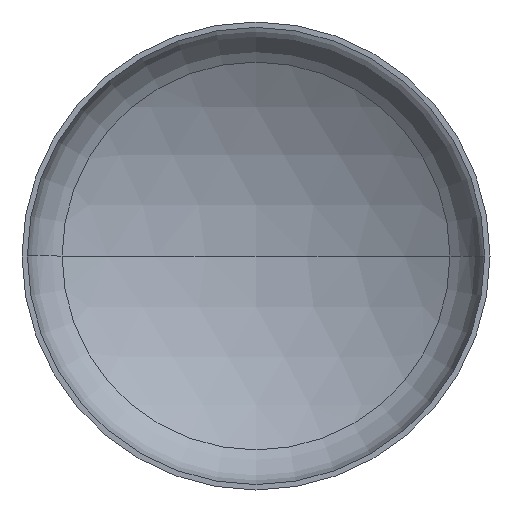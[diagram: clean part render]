
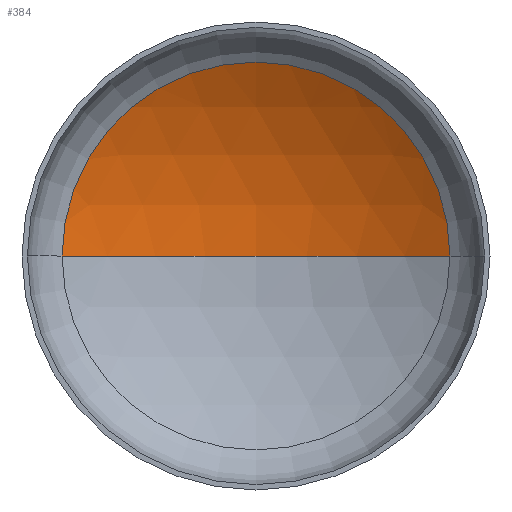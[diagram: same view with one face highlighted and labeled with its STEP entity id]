
A CAD part, front view. The second image highlights one B-rep face of the part: STEP entity #384.
In plain terms, the highlighted spherical face has radius 3200 mm.
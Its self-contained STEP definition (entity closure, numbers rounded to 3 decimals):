
#3 = AXIS2_PLACEMENT_3D ( 'NONE', #129, #173, #350 ) ;
#16 = AXIS2_PLACEMENT_3D ( 'NONE', #160, #152, #333 ) ;
#17 = AXIS2_PLACEMENT_3D ( 'NONE', #313, #285, #110 ) ;
#19 = CIRCLE ( 'NONE', #16, 3200. ) ;
#21 = AXIS2_PLACEMENT_3D ( 'NONE', #102, #142, #136 ) ;
#24 = EDGE_LOOP ( 'NONE', ( #93, #34, #366 ) ) ;
#34 = ORIENTED_EDGE ( 'NONE', *, *, #338, .T. ) ;
#41 = CIRCLE ( 'NONE', #21, 1657.563 ) ;
#93 = ORIENTED_EDGE ( 'NONE', *, *, #341, .F. ) ;
#102 = CARTESIAN_POINT ( 'NONE',  ( 0., 666.063, 0. ) ) ;
#110 = DIRECTION ( 'NONE',  ( 1., 0., 0. ) ) ;
#127 = VERTEX_POINT ( 'NONE', #213 ) ;
#129 = CARTESIAN_POINT ( 'NONE',  ( 0., -2071.177, 0. ) ) ;
#135 = VERTEX_POINT ( 'NONE', #211 ) ;
#136 = DIRECTION ( 'NONE',  ( 1., 0., 0. ) ) ;
#142 = DIRECTION ( 'NONE',  ( 0., -1., 0. ) ) ;
#149 = VERTEX_POINT ( 'NONE', #200 ) ;
#152 = DIRECTION ( 'NONE',  ( 0., 0., -1. ) ) ;
#160 = CARTESIAN_POINT ( 'NONE',  ( 0., -2071.177, 0. ) ) ;
#173 = DIRECTION ( 'NONE',  ( 0., 0., -1. ) ) ;
#200 = CARTESIAN_POINT ( 'NONE',  ( -1657.563, 666.063, 0. ) ) ;
#211 = CARTESIAN_POINT ( 'NONE',  ( 0., 1128.823, 0. ) ) ;
#213 = CARTESIAN_POINT ( 'NONE',  ( 1657.563, 666.063, 0. ) ) ;
#285 = DIRECTION ( 'NONE',  ( 0., 0., 1. ) ) ;
#298 = CIRCLE ( 'NONE', #17, 3200. ) ;
#313 = CARTESIAN_POINT ( 'NONE',  ( 0., -2071.177, 0. ) ) ;
#332 = EDGE_CURVE ( 'NONE', #127, #149, #41, .T. ) ;
#333 = DIRECTION ( 'NONE',  ( -1., 0., 0. ) ) ;
#338 = EDGE_CURVE ( 'NONE', #135, #127, #19, .T. ) ;
#341 = EDGE_CURVE ( 'NONE', #135, #149, #298, .T. ) ;
#350 = DIRECTION ( 'NONE',  ( -1., 0., 0. ) ) ;
#366 = ORIENTED_EDGE ( 'NONE', *, *, #332, .T. ) ;
#384 = ADVANCED_FACE ( 'NONE', ( #401 ), #411, .F. ) ;
#401 = FACE_OUTER_BOUND ( 'NONE', #24, .T. ) ;
#411 = SPHERICAL_SURFACE ( 'NONE', #3, 3200. ) ;
